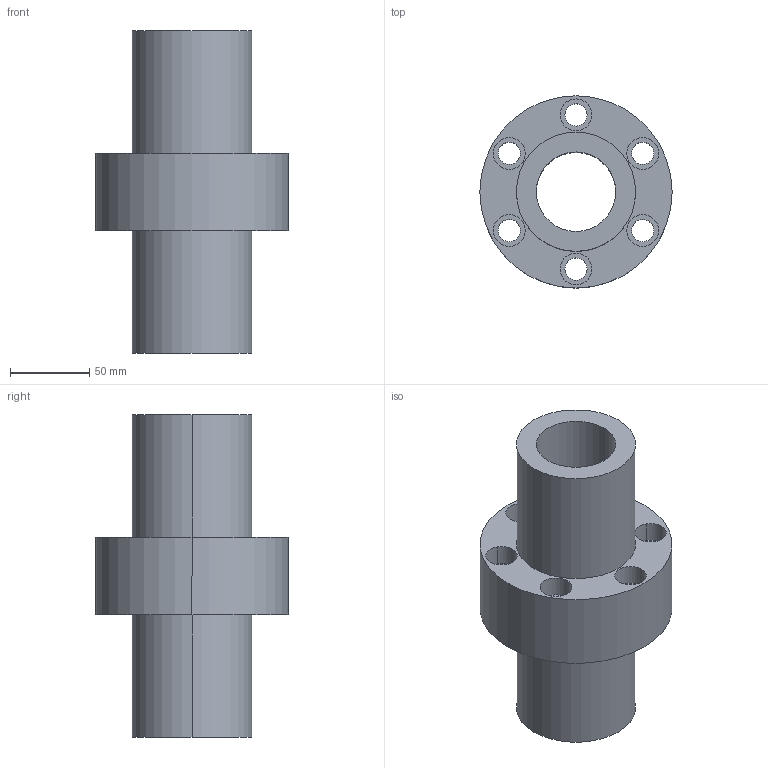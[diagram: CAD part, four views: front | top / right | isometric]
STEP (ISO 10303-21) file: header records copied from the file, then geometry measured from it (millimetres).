
FILE_DESCRIPTION((''),'2;1');
FILE_NAME('50-12T3','2008-04-07T',('yanyu'),(''),'PRO/ENGINEER BY PARAMETRIC TECHNOLOGY CORPORATION, 2005070','PRO/ENGINEER BY PARAMETRIC TECHNOLOGY CORPORATION, 2005070','');
FILE_SCHEMA(('CONFIG_CONTROL_DESIGN'));
Length unit declared in the file: millimetre
Products named in the file (1): 50-12T3
Bounding box: 121 x 121 x 203 mm (x, y, z)
Volume: 787458.3 mm3; surface area: 118423.9 mm2
Topology: 1 solids, 1 shells, 42 faces, 100 edges, 68 vertices
Faces by surface type: cylinder 32, plane 10
Entity records: 1330 total; most frequent: DIRECTION 252, CARTESIAN_POINT 210, ORIENTED_EDGE 200, AXIS2_PLACEMENT_3D 110, EDGE_CURVE 100, VERTEX_POINT 68, CIRCLE 68, EDGE_LOOP 64
